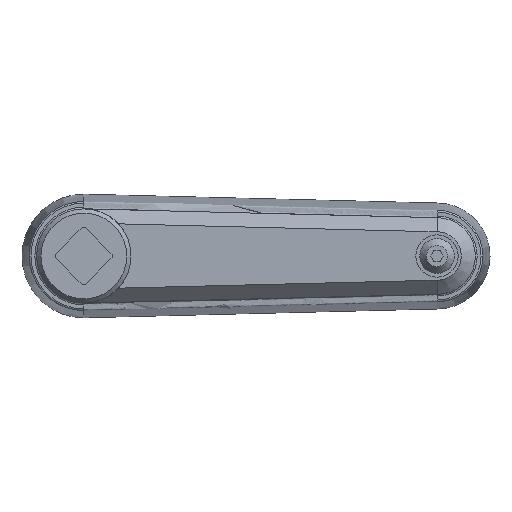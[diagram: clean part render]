
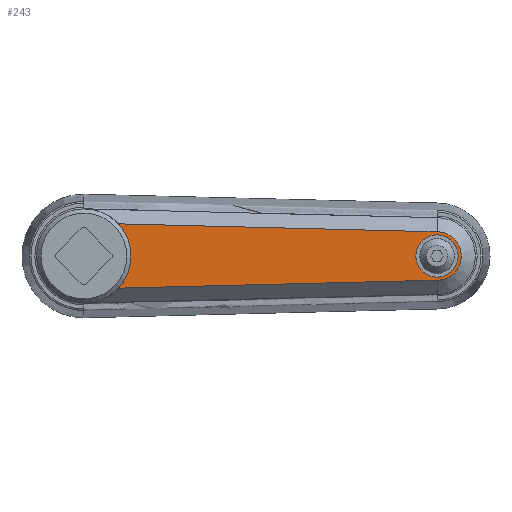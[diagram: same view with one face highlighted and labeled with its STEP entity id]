
A CAD part, left-side view. The second image highlights one B-rep face of the part: STEP entity #243.
In plain terms, the highlighted planar face has unit normal (-1, 0, 0).
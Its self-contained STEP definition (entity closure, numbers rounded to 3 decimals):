
#243 = ADVANCED_FACE( '', ( #434, #435 ), #436, .F. );
#434 = FACE_BOUND( '', #714, .T. );
#435 = FACE_OUTER_BOUND( '', #715, .T. );
#436 = PLANE( '', #716 );
#714 = EDGE_LOOP( '', ( #1360 ) );
#715 = EDGE_LOOP( '', ( #1361, #1362, #1363, #1364 ) );
#716 = AXIS2_PLACEMENT_3D( '', #1365, #1366, #1367 );
#1360 = ORIENTED_EDGE( '', *, *, #1647, .T. );
#1361 = ORIENTED_EDGE( '', *, *, #1630, .F. );
#1362 = ORIENTED_EDGE( '', *, *, #1716, .F. );
#1363 = ORIENTED_EDGE( '', *, *, #1722, .T. );
#1364 = ORIENTED_EDGE( '', *, *, #1718, .T. );
#1365 = CARTESIAN_POINT( '', ( -5.6, -100., -6.854 ) );
#1366 = DIRECTION( '', ( 1., 0., 0. ) );
#1367 = DIRECTION( '', ( 0., 0., -1. ) );
#1630 = EDGE_CURVE( '', #1948, #1950, #1951, .F. );
#1647 = EDGE_CURVE( '', #1976, #1976, #1977, .T. );
#1716 = EDGE_CURVE( '', #2085, #1948, #2086, .T. );
#1718 = EDGE_CURVE( '', #2088, #1950, #2089, .T. );
#1722 = EDGE_CURVE( '', #2085, #2088, #2093, .T. );
#1948 = VERTEX_POINT( '', #2567 );
#1950 = VERTEX_POINT( '', #2569 );
#1951 = CIRCLE( '', #2570, 13.35 );
#1976 = VERTEX_POINT( '', #2624 );
#1977 = CIRCLE( '', #2625, 5.992 );
#2085 = VERTEX_POINT( '', #2784 );
#2086 = LINE( '', #2785, #2786 );
#2088 = VERTEX_POINT( '', #2789 );
#2089 = LINE( '', #2790, #2791 );
#2093 = CIRCLE( '', #2796, 6.854 );
#2567 = CARTESIAN_POINT( '', ( -5.6, -9.759, -9.109 ) );
#2569 = CARTESIAN_POINT( '', ( -5.6, -9.759, 9.109 ) );
#2570 = AXIS2_PLACEMENT_3D( '', #2983, #2984, #2985 );
#2624 = CARTESIAN_POINT( '', ( -5.6, -100., -5.992 ) );
#2625 = AXIS2_PLACEMENT_3D( '', #3007, #3008, #3009 );
#2784 = CARTESIAN_POINT( '', ( -5.6, -100., -6.854 ) );
#2785 = CARTESIAN_POINT( '', ( -5.6, -100., -6.854 ) );
#2786 = VECTOR( '', #3116, 1000. );
#2789 = CARTESIAN_POINT( '', ( -5.6, -100., 6.854 ) );
#2790 = CARTESIAN_POINT( '', ( -5.6, -100., 6.854 ) );
#2791 = VECTOR( '', #3118, 1000. );
#2796 = AXIS2_PLACEMENT_3D( '', #3126, #3127, #3128 );
#2983 = CARTESIAN_POINT( '', ( -5.6, 0., 0. ) );
#2984 = DIRECTION( '', ( 1., 0., 0. ) );
#2985 = DIRECTION( '', ( 0., 0., -1. ) );
#3007 = CARTESIAN_POINT( '', ( -5.6, -100., 0. ) );
#3008 = DIRECTION( '', ( 1., 0., 0. ) );
#3009 = DIRECTION( '', ( 0., 0., -1. ) );
#3116 = DIRECTION( '', ( 0., 1., -0.025 ) );
#3118 = DIRECTION( '', ( 0., 1., 0.025 ) );
#3126 = CARTESIAN_POINT( '', ( -5.6, -100., 0. ) );
#3127 = DIRECTION( '', ( -1., 0., 0. ) );
#3128 = DIRECTION( '', ( 0., 0., 1. ) );
